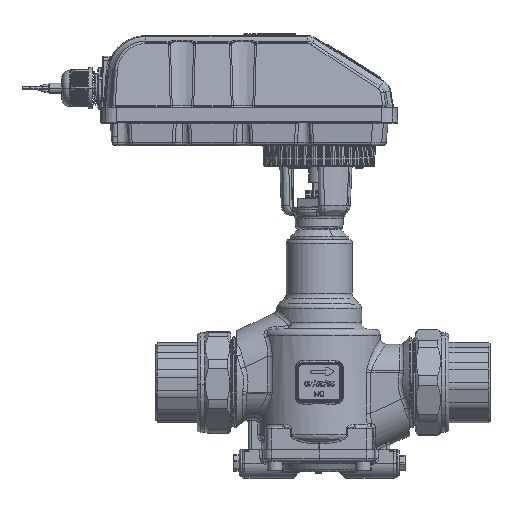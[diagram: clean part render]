
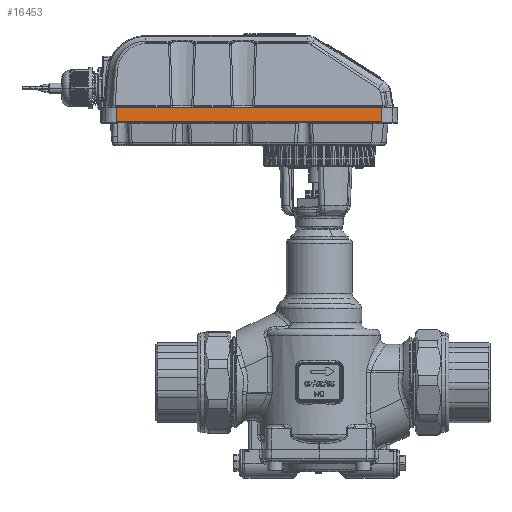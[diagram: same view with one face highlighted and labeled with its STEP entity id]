
A CAD part, top view. The second image highlights one B-rep face of the part: STEP entity #16453.
In plain terms, the highlighted planar face has unit normal (0, 0.035, 0.999).
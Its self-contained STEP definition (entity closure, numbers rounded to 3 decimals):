
#146 = DIRECTION ( 'NONE',  ( 1., 0., 0. ) ) ;
#7062 = CARTESIAN_POINT ( 'NONE',  ( 41., 170.2, 52.95 ) ) ;
#16453 = ADVANCED_FACE ( 'NONE', ( #65382 ), #43231, .T. ) ;
#27423 = ORIENTED_EDGE ( 'NONE', *, *, #60604, .F. ) ;
#28464 = VERTEX_POINT ( 'NONE', #96020 ) ;
#32462 = VERTEX_POINT ( 'NONE', #140585 ) ;
#33792 = CARTESIAN_POINT ( 'NONE',  ( -133., 170.2, 52.95 ) ) ;
#34863 = EDGE_CURVE ( 'NONE', #58795, #32462, #126786, .T. ) ;
#39436 = LINE ( 'NONE', #7062, #124455 ) ;
#43231 = PLANE ( 'NONE',  #117798 ) ;
#44863 = EDGE_LOOP ( 'NONE', ( #84973, #49590, #27423, #57926 ) ) ;
#49590 = ORIENTED_EDGE ( 'NONE', *, *, #116628, .F. ) ;
#50838 = DIRECTION ( 'NONE',  ( 0., -0.999, 0.035 ) ) ;
#57926 = ORIENTED_EDGE ( 'NONE', *, *, #100081, .F. ) ;
#58795 = VERTEX_POINT ( 'NONE', #119506 ) ;
#60604 = EDGE_CURVE ( 'NONE', #130905, #28464, #140499, .T. ) ;
#62929 = CARTESIAN_POINT ( 'NONE',  ( -94.725, 170.717, 52.932 ) ) ;
#64765 = VECTOR ( 'NONE', #65285, 1000. ) ;
#65285 = DIRECTION ( 'NONE',  ( 0., 0.999, -0.035 ) ) ;
#65382 = FACE_OUTER_BOUND ( 'NONE', #44863, .T. ) ;
#72257 = DIRECTION ( 'NONE',  ( -1., 0., 0. ) ) ;
#74452 = DIRECTION ( 'NONE',  ( 1., 0., 0. ) ) ;
#76130 = CARTESIAN_POINT ( 'NONE',  ( -143.45, 170.4, 52.943 ) ) ;
#83660 = CARTESIAN_POINT ( 'NONE',  ( -133., 179.917, 52.611 ) ) ;
#84973 = ORIENTED_EDGE ( 'NONE', *, *, #34863, .F. ) ;
#89968 = VECTOR ( 'NONE', #74452, 1000. ) ;
#96020 = CARTESIAN_POINT ( 'NONE',  ( 41., 179.917, 52.611 ) ) ;
#100081 = EDGE_CURVE ( 'NONE', #32462, #130905, #108303, .T. ) ;
#108303 = LINE ( 'NONE', #33792, #64765 ) ;
#116628 = EDGE_CURVE ( 'NONE', #28464, #58795, #39436, .T. ) ;
#117798 = AXIS2_PLACEMENT_3D ( 'NONE', #76130, #141443, #146 ) ;
#119506 = CARTESIAN_POINT ( 'NONE',  ( 41., 170.717, 52.932 ) ) ;
#124455 = VECTOR ( 'NONE', #50838, 1000. ) ;
#126786 = LINE ( 'NONE', #62929, #133600 ) ;
#130422 = CARTESIAN_POINT ( 'NONE',  ( -94.725, 179.917, 52.611 ) ) ;
#130905 = VERTEX_POINT ( 'NONE', #83660 ) ;
#133600 = VECTOR ( 'NONE', #72257, 1000. ) ;
#140499 = LINE ( 'NONE', #130422, #89968 ) ;
#140585 = CARTESIAN_POINT ( 'NONE',  ( -133., 170.717, 52.932 ) ) ;
#141443 = DIRECTION ( 'NONE',  ( 0., 0.035, 0.999 ) ) ;
